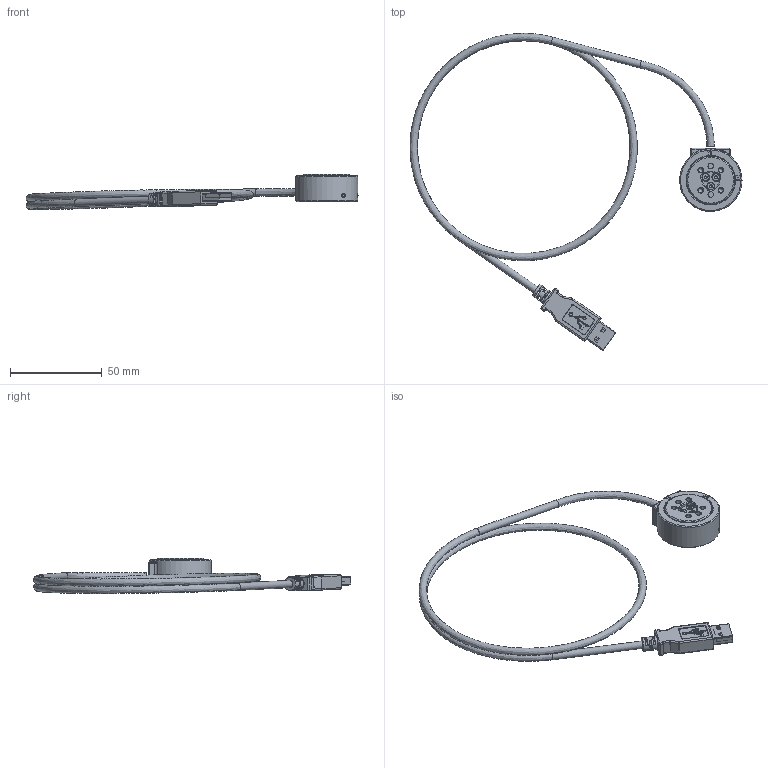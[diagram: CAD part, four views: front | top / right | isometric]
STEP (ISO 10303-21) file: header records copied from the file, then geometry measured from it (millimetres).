
FILE_DESCRIPTION (( 'STEP AP214' ), '1' );
FILE_NAME ('TactX GenA Series with USB cable 3D File .STEP', '2026-04-27T10:11:04', ( '' ), ( '' ), 'SwSTEP 2.0', 'SolidWorks 2022', '' );
FILE_SCHEMA (( 'AUTOMOTIVE_DESIGN' ));
Length unit declared in the file: millimetre
Products named in the file (22): DIN 912 M2.5 x 6 --- 6S-A2-70-NT_DIN 912 M2.5 x 6 --- 6S-A2-70-NT; 91800A050_18-8 Stainless Steel Cheese Head Slotted Screw_91800A050; ISO 14581 M2x8x8-S-A2-70-NT_ISO 14581 M2x8x8-S-A2-70-NT; FP-53261-0771-MFG_CMP-04776-000278-1; PAR-00006_PAR-00006; MiniOne_Gen_B_TOP_-_SideConn-V2; MIN-P021_SE CUT 1; TactX GenA Series with USB cable 3D File ; MiniOne_Gen_B_TOP_-_SideConn-V2_BOARD; MIN-A004_USB; Cable^MIN-A004_MINIONE; IPS-4056T-01Y900-Footprint-1_CMP-002-00146-1; USB^MIN-A004; MIN-P021_SE Cut 2; MIN-P022_Thinner One side; ISO 8734 - 1 x 3 - C1-m6-S-HR_ISO 8734 - 1 x 3 - C1-m6-S-HR
Assembly tree (20 placements, depth 3):
  MIN-P021_SE CUT 1
  TactX GenA Series with USB cable 3D File 
    MIN-P021_SE Cut 2
    MIN-P022_Thinner One side
    MiniOne_Gen_B_TOP_-_SideConn-V2
      MiniOne_Gen_B_TOP_-_SideConn-V2_BOARD
      FP-53261-0771-MFG_CMP-04776-000278-1
    91800A050_18-8 Stainless Steel Cheese Head Slotted Screw_91800A050
    91800A050_18-8 Stainless Steel Cheese Head Slotted Screw_91800A050
    91800A050_18-8 Stainless Steel Cheese Head Slotted Screw_91800A050
    DIN 912 M2.5 x 6 --- 6S-A2-70-NT_DIN 912 M2.5 x 6 --- 6S-A2-70-NT
    DIN 912 M2.5 x 6 --- 6S-A2-70-NT_DIN 912 M2.5 x 6 --- 6S-A2-70-NT
    DIN 912 M2.5 x 6 --- 6S-A2-70-NT_DIN 912 M2.5 x 6 --- 6S-A2-70-NT
    PAR-00006_PAR-00006
    PAR-00006_PAR-00006
    ISO 14581 M2x8x8-S-A2-70-NT_ISO 14581 M2x8x8-S-A2-70-NT  x3
    ISO 8734 - 1 x 3 - C1-m6-S-HR_ISO 8734 - 1 x 3 - C1-m6-S-HR
    MIN-A004_USB
      Cable^MIN-A004_MINIONE
      USB^MIN-A004
  IPS-4056T-01Y900-Footprint-1_CMP-002-00146-1
  91800A050_18-8 Stainless Steel Cheese Head Slotted Screw_91800A050
Bounding box: 181.07 x 173 x 19.19 mm (x, y, z)
Volume: 20630.6 mm3; surface area: 20990.9 mm2
Topology: 46 solids, 46 shells, 2104 faces, 4954 edges, 2898 vertices
Faces by surface type: cylinder 768, plane 751, cone 203, sphere 156, bspline 127, torus 99
Full cylindrical faces by diameter (mm): 0.35 x4, 0.8 x3, 1 x1, 1.25 x2, 1.5 x4, 1.6 x2, 2 x51, 2.2 x4, 2.4 x3, 2.5 x10, 3 x4, 3.5 x1, 3.8 x3, 4 x1, 4.5 x3, 5.2 x3, 7.5 x1, 23.33 x1, 25.67 x1, 26 x2, 26.5 x1, 34 x1
Entity records: 60847 total; most frequent: CARTESIAN_POINT 16796, DIRECTION 8819, ORIENTED_EDGE 8746, EDGE_CURVE 4373, AXIS2_PLACEMENT_3D 3191, VERTEX_POINT 2685, VECTOR 2437, LINE 2437
